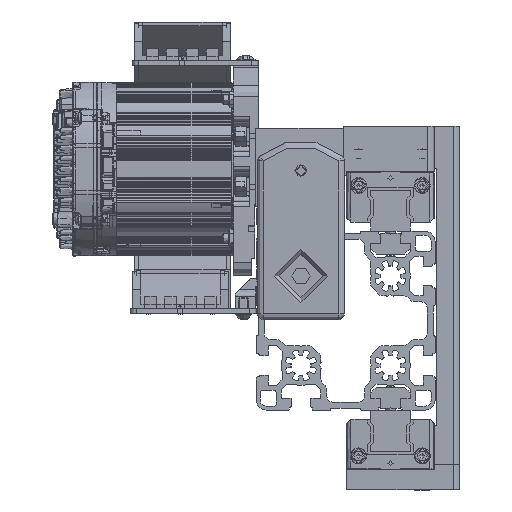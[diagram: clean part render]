
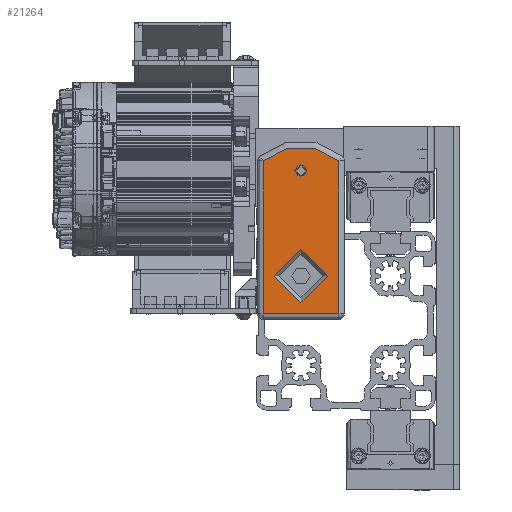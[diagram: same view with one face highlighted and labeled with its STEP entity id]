
A CAD part, front view. The second image highlights one B-rep face of the part: STEP entity #21264.
In plain terms, the highlighted planar face has unit normal (0, -1, 0) as drawn and (1, 0, 0) by its records, which use the part's own axes.
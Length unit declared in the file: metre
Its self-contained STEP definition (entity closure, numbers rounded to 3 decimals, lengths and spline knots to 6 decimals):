
#21264 = ADVANCED_FACE( '', ( #42999, #43000, #43001 ), #43002, .T. );
#42999 = FACE_BOUND( '', #124484, .T. );
#43000 = FACE_OUTER_BOUND( '', #124485, .T. );
#43001 = FACE_BOUND( '', #124486, .T. );
#43002 = PLANE( '', #124487 );
#124484 = EDGE_LOOP( '', ( #185735 ) );
#124485 = EDGE_LOOP( '', ( #185736, #185737, #185738, #185739 ) );
#124486 = EDGE_LOOP( '', ( #185740 ) );
#124487 = AXIS2_PLACEMENT_3D( '', #185741, #185742, #185743 );
#185735 = ORIENTED_EDGE( '', *, *, #216207, .T. );
#185736 = ORIENTED_EDGE( '', *, *, #210474, .T. );
#185737 = ORIENTED_EDGE( '', *, *, #208225, .T. );
#185738 = ORIENTED_EDGE( '', *, *, #205202, .T. );
#185739 = ORIENTED_EDGE( '', *, *, #205021, .T. );
#185740 = ORIENTED_EDGE( '', *, *, #212718, .F. );
#185741 = CARTESIAN_POINT( '', ( 0.00144, -0.022, 0.05928 ) );
#185742 = DIRECTION( '', ( 1., 0., 0. ) );
#185743 = DIRECTION( '', ( 0., 0., -1. ) );
#205021 = EDGE_CURVE( '', #234747, #225954, #234748, .T. );
#205202 = EDGE_CURVE( '', #235016, #234747, #235017, .T. );
#208225 = EDGE_CURVE( '', #239390, #235016, #239393, .T. );
#210474 = EDGE_CURVE( '', #225954, #239390, #242488, .T. );
#212718 = EDGE_CURVE( '', #245362, #245362, #245363, .T. );
#216207 = EDGE_CURVE( '', #249460, #249460, #249461, .T. );
#225954 = VERTEX_POINT( '', #271092 );
#234747 = VERTEX_POINT( '', #294069 );
#234748 = LINE( '', #294070, #294071 );
#235016 = VERTEX_POINT( '', #294834 );
#235017 = CIRCLE( '', #294835, 0.02875 );
#239390 = VERTEX_POINT( '', #306922 );
#239393 = LINE( '', #306926, #306927 );
#242488 = LINE( '', #316444, #316445 );
#245362 = VERTEX_POINT( '', #325340 );
#245363 = CIRCLE( '', #325341, 0.01344 );
#249460 = VERTEX_POINT( '', #336170 );
#249461 = CIRCLE( '', #336171, 0.003 );
#271092 = CARTESIAN_POINT( '', ( 0.00144, -0.019, -0.019 ) );
#294069 = CARTESIAN_POINT( '', ( 0.00144, -0.019, 0.057964 ) );
#294070 = CARTESIAN_POINT( '', ( 0.00144, -0.019, -0.019 ) );
#294071 = VECTOR( '', #352738, 1. );
#294834 = CARTESIAN_POINT( '', ( 0.00144, 0.019, 0.057964 ) );
#294835 = AXIS2_PLACEMENT_3D( '', #352945, #352946, #352947 );
#306922 = CARTESIAN_POINT( '', ( 0.00144, 0.019, -0.019 ) );
#306926 = CARTESIAN_POINT( '', ( 0.00144, 0.019, 0.057964 ) );
#306927 = VECTOR( '', #356578, 1. );
#316444 = CARTESIAN_POINT( '', ( 0.00144, 0.019, -0.019 ) );
#316445 = VECTOR( '', #359042, 1. );
#325340 = CARTESIAN_POINT( '', ( 0.00144, 0., -0.01344 ) );
#325341 = AXIS2_PLACEMENT_3D( '', #361431, #361432, #361433 );
#336170 = CARTESIAN_POINT( '', ( 0.00144, 0., 0.05593 ) );
#336171 = AXIS2_PLACEMENT_3D( '', #364520, #364521, #364522 );
#352738 = DIRECTION( '', ( 0., 0., -1. ) );
#352945 = CARTESIAN_POINT( '', ( 0.00144, 0., 0.036388 ) );
#352946 = DIRECTION( '', ( 1., 0., 0. ) );
#352947 = DIRECTION( '', ( 0., 0., -1. ) );
#356578 = DIRECTION( '', ( 0., 0., 1. ) );
#359042 = DIRECTION( '', ( 0., 1., 0. ) );
#361431 = CARTESIAN_POINT( '', ( 0.00144, 0., 0. ) );
#361432 = DIRECTION( '', ( 1., 0., 0. ) );
#361433 = DIRECTION( '', ( 0., 0., -1. ) );
#364520 = CARTESIAN_POINT( '', ( 0.00144, 0., 0.05293 ) );
#364521 = DIRECTION( '', ( -1., 0., 0. ) );
#364522 = DIRECTION( '', ( 0., 0., 1. ) );
